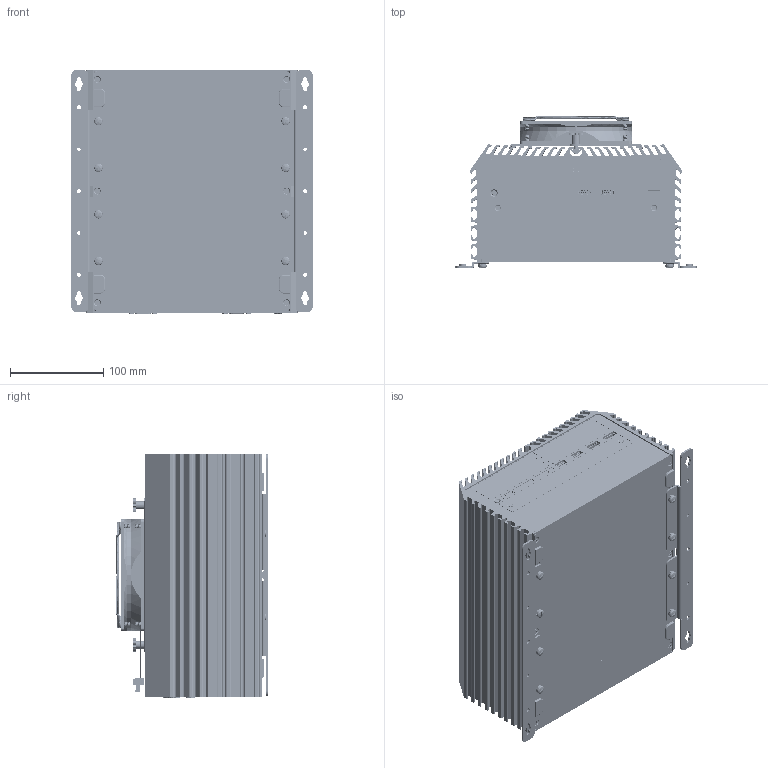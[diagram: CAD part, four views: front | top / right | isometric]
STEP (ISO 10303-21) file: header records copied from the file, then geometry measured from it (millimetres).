
FILE_DESCRIPTION (( 'STEP AP214' ), '1' );
FILE_NAME ('1-DS-1502+Wall Mount+12” 風扇-外觀-20250807.STEP', '2026-07-27T05:19:38', ( '' ), ( '' ), 'SwSTEP 2.0', 'SolidWorks 2014', '' );
FILE_SCHEMA (( 'AUTOMOTIVE_DESIGN' ));
Length unit declared in the file: millimetre
Products named in the file (59): AUTIO_2IN1; DS-1200-Front Bezel Matching Bezel(M1-407120084100); M5-SP_3; RITILA_ASM_1_ASM_4_ASM; USB-3.0-SMT-T.H(122-0921NX0504); MANIFOLD_SOLID_BREP_907_1_1; MANIFOLD_SOLID_BREP_899_1_1; Hole Plugs(M4-RUBR0100004)-M06V0; 12_ASM_23_ASM; USB3.1-2+RJ45-JFM48U1B-BA04(2.5G)(23-D0572300320); RUUVI_1_1; Rubber Foot Shore(M4-RUFT0100001); MANIFOLD_SOLID_BREP_903_1_1; Screw-丸頭-十字-外齒-M5x8(M3-SCREAB00002); MANIFOLD_SOLID_BREP_902_1_1; PWR_BTN_TC003; MANIFOLD_SOLID_BREP_908_1_1; MANIFOLD_SOLID_BREP_900_1_1; DS-1102-Riser Card Bracket-A(M1-107110253400); DS-1500-Front Open Bezel(M1-407150084100); DS-Wall Mount Bracket(M1-ZZZZ3611004); ROTOR_120MM_FAN_2_2; MANIFOLD_SOLID_BREP_901_1_1; DS-1300-Front Bezel-symbol_panel(M0-ZZZZ5C30009)-20200923; 120_X_120_X_25_DC_FAN_ASM_3_ASM_ASM; DS-1302-Front Bezel(M1-407130224100)-20200311; MANIFOLD_SOLID_BREP_904_1_1; Top Cover(M1-407120206300)-DS-1202-金金-20181015; USB3.0-2L+RJ45-JFM38U1B-B313-4F(23-D0202300320); DS-1200-Bottom Cover asm-20200406; DS-1502-Riser Card Bracket(M1-107150253400)-20240216; DS-1302-Rear Bezel(M1-407130234100)-20200419; DS-MEC KIT-Universal Bracket(M1-ZZZZ3613001); 23-D0351500040_CN2_MINIDIN_USBX2; DS-1202-Top Cover asm-金金-20180402; DS-1502-Riser Card Bracket asm-20240216; 23-D0242300200_DP1_DISPLAYPORT; 23-D0341500040_FAN2_ECH350R_3P_1LAYER; D330H1SL72211DD0; D20H1P1PA1X2A111N2 (3D)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
Assembly tree (102 placements, depth 4):
  1-DS-1502+Wall Mount+12” 風扇-外觀-20250807
    DS-1500-PCBA-ASM-20250203
      DS-1500-Main Board asm-20250203
        23-D0351500040_CN1_ECHB350R-04P
        AUTIO_2IN1
        D20H1P1PA1X2A111N2 (3D)
        23-D0351500040_CN2_MINIDIN_USBX2
        D330H1SL72211DD0
        23-D0242300200_DP1_DISPLAYPORT  x2
        23-D0341500040_FAN2_ECH350R_3P_1LAYER
        23-D0341500030_DC_IN1_5EHDRM-03P_8
        PWR_BTN_TC003
        USB-3.0-SMT-T.H(122-0921NX0504)  x2
        WHDM-19FLBSDR
        USB3.0-2L+RJ45-JFM38U1B-B313-4F(23-D0202300320)
        USB3.1-2+RJ45-JFM48U1B-BA04(2.5G)(23-D0572300320)
    DS-1302-Front Bezel(M1-407130224100)-20200311
    DS-1300-Front Bezel-symbol_panel(M0-ZZZZ5C30009)-20200923
    DS-1500-Front Open Bezel(M1-407150084100)
    DS-1200-Front Bezel Matching Bezel(M1-407120084100)  x2
    DS-1302-Rear Bezel(M1-407130234100)-20200419
    DS-MEC KIT-Universal Bracket(M1-ZZZZ3613001)  x3
    DS-1202-Top Cover asm-金金-20180402
      Top Cover(M1-407120206300)-DS-1202-金金-20181015
    DS-1200-Bottom Cover asm-20200406
      DS-1200-Bottom Cover(M1-407120011200)-20180821
      Rubber Foot Shore(M4-RUFT0100001)  x4
    Screw-耐落-沙拉-120-星型-T10-黑-M3x5(M3-N103052230)  x7
    Screw-耐落-沙拉-90-星型-T10-黑-M3x8(M3-N103082260)  x6
    Screw-沙拉-120-星型-T10+E型扣-黑-M3x13(M3-1103132270+M3-402004050415)  x2
    Screw-丸頭-十字-外齒-M5x8(M3-SCREAB00002)
    Hole Plugs(M4-RUBR0100004)-M06V0  x2
    DS-Wall Mount Bracket(M1-ZZZZ3611004)  x2
    Screw-丸頭-十字-耐落-SW-M5x6(M3-SCREAB00001)  x8
    銅柱-4-4OUNC-4.8_11.8H(M3-COSD6L00000)東莞?輝  x6
    DS-1502-Riser Card Bracket asm-20240216
      DS-1502-Riser Card Bracket(M1-107150253400)-20240216
        DS-1102-Riser Card Bracket-A(M1-107110253400)
      L-Bracket(M0-LBKT2300017)  x2
    12_ASM_23_ASM
      12-PLATE_9
      M5-SP_3  x2
      120_X_120_X_25_DC_FAN_ASM_3_ASM_ASM
        ROTOR_120MM_FAN_2_2
        VOLUMENK_S_VRPER1-4576_2_2
      NUT-M5  x2
      RUUVI_1_1  x8
      RITILA_ASM_1_ASM_4_ASM
        MANIFOLD_SOLID_BREP_899_1_1
        MANIFOLD_SOLID_BREP_900_1_1
        MANIFOLD_SOLID_BREP_901_1_1
        MANIFOLD_SOLID_BREP_902_1_1
        MANIFOLD_SOLID_BREP_903_1_1
        MANIFOLD_SOLID_BREP_904_1_1
        MANIFOLD_SOLID_BREP_905_1_1
        MANIFOLD_SOLID_BREP_906_1_1
        MANIFOLD_SOLID_BREP_907_1_1
        MANIFOLD_SOLID_BREP_908_1_1
      外接電源B-4腳
Bounding box: 259 x 163.95 x 262.9 mm (x, y, z)
Volume: 1590546 mm3; surface area: 943207 mm2
Topology: 118 solids, 318 shells, 24297 faces, 67229 edges, 43458 vertices
Faces by surface type: plane 14694, cylinder 6759, bspline 2399, cone 349, sphere 58, torus 38
Entity records: 836738 total; most frequent: CARTESIAN_POINT 230818, ORIENTED_EDGE 109250, DIRECTION 88138, EDGE_CURVE 54833, LINE 36904, VECTOR 36904, VERTEX_POINT 35527, AXIS2_PLACEMENT_3D 25617
